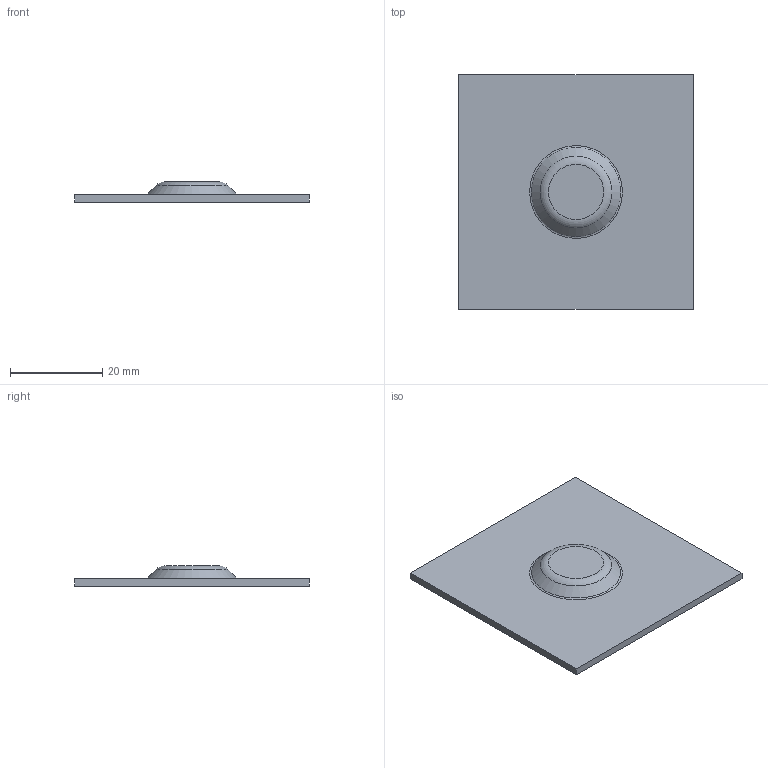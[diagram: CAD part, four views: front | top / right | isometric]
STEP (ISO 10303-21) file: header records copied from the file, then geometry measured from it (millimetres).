
FILE_DESCRIPTION(('PART XYZ REV A'),'1');
FILE_NAME('EF12','2012-03-30T15:33:08',('ERIC'),('TRIAX'),'Spatial Interop R21 SP3','Kubotek KeyCreator 2011 V10.5.0 (24766)','CHAZ');
FILE_SCHEMA(('CONFIG_CONTROL_DESIGN'));
Length unit declared in the file: inch
Products named in the file (1): 1
Bounding box: 50.8 x 50.82 x 4.37 mm (x, y, z)
Volume: 4147.6 mm3; surface area: 5587.5 mm2
Topology: 1 solids, 1 shells, 14 faces, 27 edges, 17 vertices
Faces by surface type: plane 8, torus 4, cone 2
Entity records: 360 total; most frequent: DIRECTION 58, CARTESIAN_POINT 51, ORIENTED_EDGE 40, AXIS2_PLACEMENT_3D 23, EDGE_LOOP 22, EDGE_CURVE 20, VERTEX_POINT 16, ADVANCED_FACE 14
